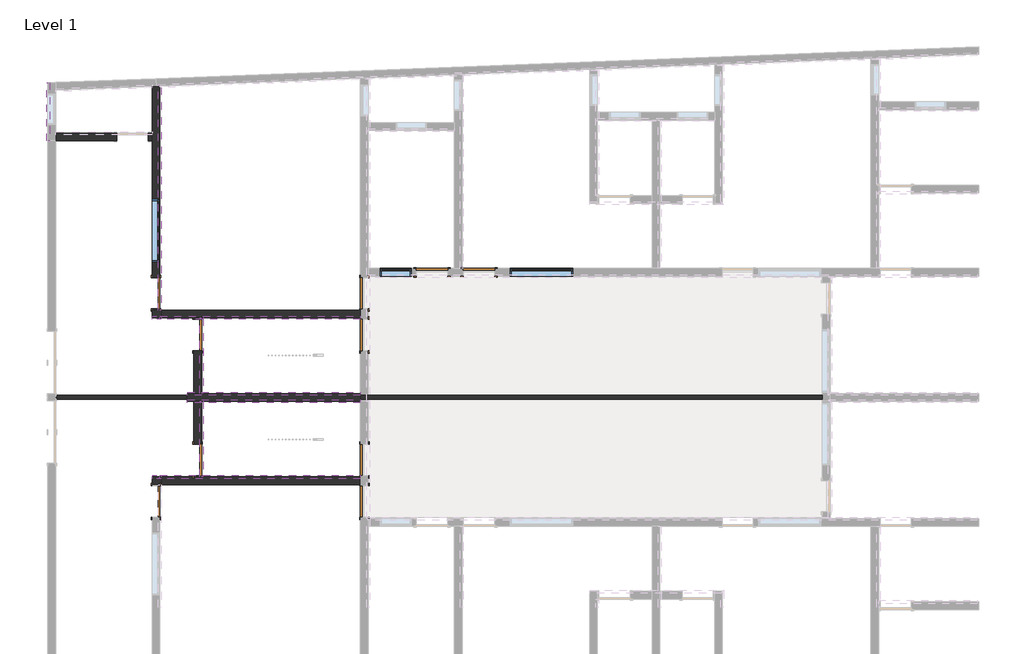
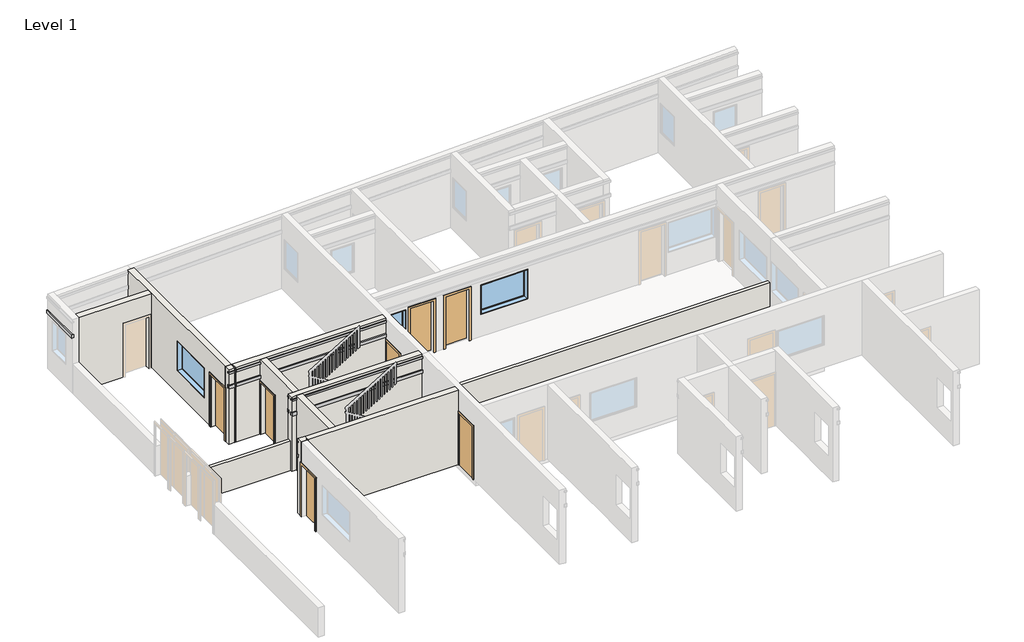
# One storey, part 3 of 5: 20 proxies, 11 walls, 10 doors, 3 windows.
"""IFC4 building model written with IfcOpenShell, lengths in millimetres."""

from ifc_helpers import new_model, si_unit, frame, origin, origin_with_axes, place, context, project, spatial, polyline, outline, extrude, faceted_brep, transform, mapped, element, save
from components import door_0ca8825f, door_a90ba1ad, window_26734613, fixed_6_x4_abaca003

model = new_model("IFC4")

# Units and contexts
model_context = context("Model", 3, world=origin())
ifc_project = project(units=[si_unit("LENGTHUNIT", "METRE", prefix="MILLI")], contexts=[model_context])

# Site, building, storey
site = spatial("IfcSite", under=ifc_project)
building = spatial("IfcBuilding", under=site)
storey = spatial("IfcBuildingStorey", under=building, Name="Level 1", Elevation=0.0)

# Proxies
placement = place(None, origin())
element("IfcBuildingElementProxy", 1, Name="Reveals", at=placement, inside=storey, context=model_context, shape_type="SweptSolid", body=[
    extrude(outline(polyline([(-13868.3142301, 6009.8239224), (-13960.3892301, 6009.8239224), (-13960.3892301, 12611.7298124), (-13868.3142301, 12523.1659086), (-13868.3142301, 6009.8239224)])), frame((0.0, 0.0, 2895.6), z_axis=(0.0, 0.0, 1.0), x_axis=(1.0, 0.0, 0.0)), (0.0, 0.0, 1.0), 67.7333333),
])
element("IfcBuildingElementProxy", 2, Name="Reveals", at=placement, inside=storey, context=model_context, shape_type="SweptSolid", body=[
    extrude(outline(polyline([(-14138.1892301, 5739.9489224), (-14138.1892301, 5832.0239224), (-13871.4892301, 5832.0239224), (-13871.4892301, 5739.9489224), (-14138.1892301, 5739.9489224)])), frame((0.0, 0.0, 2895.6), z_axis=(0.0, 0.0, 1.0), x_axis=(1.0, 0.0, 0.0)), (0.0, 0.0, 1.0), 67.7333333),
])
element("IfcBuildingElementProxy", 3, Name="Reveals", at=placement, inside=storey, context=model_context, shape_type="SweptSolid", body=[
    extrude(outline(polyline([(-13109.4892301, 3301.5489224), (-13109.4892301, 3393.6239224), (-8042.1892301, 3393.6239224), (-8042.1892301, 3301.5489224), (-13109.4892301, 3301.5489224)])), frame((0.0, 0.0, 2895.6), z_axis=(0.0, 0.0, 1.0), x_axis=(1.0, 0.0, 0.0)), (0.0, 0.0, 1.0), 67.7333333),
])
element("IfcBuildingElementProxy", 4, Name="Reveals", at=placement, inside=storey, context=model_context, shape_type="SweptSolid", body=[
    extrude(outline(polyline([(-13909.5892301, 5739.9489224), (-13909.5892301, 5832.0239224), (-8042.1892301, 5832.0239224), (-8042.1892301, 5739.9489224), (-13909.5892301, 5739.9489224)])), frame((0.0, 0.0, 2895.6), z_axis=(0.0, 0.0, 1.0), x_axis=(1.0, 0.0, 0.0)), (0.0, 0.0, 1.0), 67.7333333),
])
element("IfcBuildingElementProxy", 5, Name="Reveals", at=placement, inside=storey, context=model_context, shape_type="SweptSolid", body=[
    extrude(outline(polyline([(-12649.1142301, 3571.4239224), (-12741.1892301, 3571.4239224), (-12741.1892301, 5781.2239224), (-12649.1142301, 5781.2239224), (-12649.1142301, 3571.4239224)])), frame((0.0, 0.0, 2895.6), z_axis=(0.0, 0.0, 1.0), x_axis=(1.0, 0.0, 0.0)), (0.0, 0.0, 1.0), 67.7333333),
])
element("IfcBuildingElementProxy", 6, Name="Reveals", at=placement, inside=storey, context=model_context, shape_type="SweptSolid", body=[
    extrude(outline(polyline([(-14138.1892301, 11232.6989224), (-14138.1892301, 11140.6239224), (-16957.5892301, 11140.6239224), (-16957.5892301, 11232.6989224), (-14138.1892301, 11232.6989224)])), frame((0.0, 0.0, 2895.6), z_axis=(0.0, 0.0, 1.0), x_axis=(1.0, 0.0, 0.0)), (0.0, 0.0, 1.0), 67.7333333),
])
element("IfcBuildingElementProxy", 7, Name="Reveals", at=placement, inside=storey, context=model_context, shape_type="SweptSolid", body=[
    extrude(outline(polyline([(-13109.4892301, 3520.6239224), (-13109.4892301, 3612.6989224), (-8042.1892301, 3612.6989224), (-8042.1892301, 3520.6239224), (-13109.4892301, 3520.6239224)])), frame((0.0, 0.0, 2895.6), z_axis=(0.0, 0.0, 1.0), x_axis=(1.0, 0.0, 0.0)), (0.0, 0.0, 1.0), 67.7333333),
])
element("IfcBuildingElementProxy", 8, Name="Reveals", at=placement, inside=storey, context=model_context, shape_type="SweptSolid", body=[
    extrude(outline(polyline([(-14138.1892301, 1082.2239224), (-14138.1892301, 1174.2989224), (-13871.4892301, 1174.2989224), (-13871.4892301, 1082.2239224), (-14138.1892301, 1082.2239224)])), frame((0.0, 0.0, 2895.6), z_axis=(0.0, 0.0, 1.0), x_axis=(1.0, 0.0, 0.0)), (0.0, 0.0, 1.0), 67.7333333),
])
element("IfcBuildingElementProxy", 9, Name="Reveals", at=placement, inside=storey, context=model_context, shape_type="SweptSolid", body=[
    extrude(outline(polyline([(-13909.5892301, 1082.2239224), (-13909.5892301, 1174.2989224), (-8042.1892301, 1174.2989224), (-8042.1892301, 1082.2239224), (-13909.5892301, 1082.2239224)])), frame((0.0, 0.0, 2895.6), z_axis=(0.0, 0.0, 1.0), x_axis=(1.0, 0.0, 0.0)), (0.0, 0.0, 1.0), 67.7333333),
])
element("IfcBuildingElementProxy", 10, Name="Reveals", at=placement, inside=storey, context=model_context, shape_type="SweptSolid", body=[
    extrude(outline(polyline([(-12741.1892301, 3342.8239224), (-12649.1142301, 3342.8239224), (-12649.1142301, 1133.0239224), (-12741.1892301, 1133.0239224), (-12741.1892301, 3342.8239224)])), frame((0.0, 0.0, 2895.6), z_axis=(0.0, 0.0, 1.0), x_axis=(1.0, 0.0, 0.0)), (0.0, 0.0, 1.0), 67.7333333),
])
element("IfcBuildingElementProxy", 11, Name="Reveals", at=placement, inside=storey, context=model_context, shape_type="SweptSolid", body=[
    extrude(outline(polyline([(-17227.4642301, 12662.6112925), (-17135.3892301, 12666.1919869), (-17135.3892301, 10962.8239224), (-17227.4642301, 10962.8239224), (-17227.4642301, 12662.6112925)])), frame((0.0, 0.0, 2286.0), z_axis=(0.0, 0.0, 1.0), x_axis=(1.0, 0.0, 0.0)), (0.0, 0.0, 1.0), 135.4666667),
])
element("IfcBuildingElementProxy", 12, Name="Reveals", at=placement, inside=storey, context=model_context, shape_type="SweptSolid", body=[
    extrude(outline(polyline([(-13868.3142301, 6009.8239224), (-13960.3892301, 6009.8239224), (-13960.3892301, 12611.7298124), (-13868.3142301, 12523.1659086), (-13868.3142301, 6009.8239224)])), frame((0.0, 0.0, 2286.0), z_axis=(0.0, 0.0, 1.0), x_axis=(1.0, 0.0, 0.0)), (0.0, 0.0, 1.0), 135.4666667),
])
element("IfcBuildingElementProxy", 13, Name="Reveals", at=placement, inside=storey, context=model_context, shape_type="SweptSolid", body=[
    extrude(outline(polyline([(-14138.1892301, 5739.9489224), (-14138.1892301, 5832.0239224), (-13871.4892301, 5832.0239224), (-13871.4892301, 5739.9489224), (-14138.1892301, 5739.9489224)])), frame((0.0, 0.0, 2286.0), z_axis=(0.0, 0.0, 1.0), x_axis=(1.0, 0.0, 0.0)), (0.0, 0.0, 1.0), 135.4666667),
])
element("IfcBuildingElementProxy", 14, Name="Reveals", at=placement, inside=storey, context=model_context, shape_type="SweptSolid", body=[
    extrude(outline(polyline([(-13109.4892301, 3301.5489224), (-13109.4892301, 3393.6239224), (-8042.1892301, 3393.6239224), (-8042.1892301, 3301.5489224), (-13109.4892301, 3301.5489224)])), frame((0.0, 0.0, 2286.0), z_axis=(0.0, 0.0, 1.0), x_axis=(1.0, 0.0, 0.0)), (0.0, 0.0, 1.0), 135.4666667),
])
element("IfcBuildingElementProxy", 15, Name="Reveals", at=placement, inside=storey, context=model_context, shape_type="SweptSolid", body=[
    extrude(outline(polyline([(-13909.5892301, 5739.9489224), (-13909.5892301, 5832.0239224), (-8042.1892301, 5832.0239224), (-8042.1892301, 5739.9489224), (-13909.5892301, 5739.9489224)])), frame((0.0, 0.0, 2286.0), z_axis=(0.0, 0.0, 1.0), x_axis=(1.0, 0.0, 0.0)), (0.0, 0.0, 1.0), 135.4666667),
])
element("IfcBuildingElementProxy", 16, Name="Reveals", at=placement, inside=storey, context=model_context, shape_type="SweptSolid", body=[
    extrude(outline(polyline([(-12649.1142301, 3571.4239224), (-12741.1892301, 3571.4239224), (-12741.1892301, 5781.2239224), (-12649.1142301, 5781.2239224), (-12649.1142301, 3571.4239224)])), frame((0.0, 0.0, 2286.0), z_axis=(0.0, 0.0, 1.0), x_axis=(1.0, 0.0, 0.0)), (0.0, 0.0, 1.0), 135.4666667),
])
element("IfcBuildingElementProxy", 17, Name="Reveals", at=placement, inside=storey, context=model_context, shape_type="SweptSolid", body=[
    extrude(outline(polyline([(-13109.4892301, 3520.6239224), (-13109.4892301, 3612.6989224), (-8042.1892301, 3612.6989224), (-8042.1892301, 3520.6239224), (-13109.4892301, 3520.6239224)])), frame((0.0, 0.0, 2286.0), z_axis=(0.0, 0.0, 1.0), x_axis=(1.0, 0.0, 0.0)), (0.0, 0.0, 1.0), 135.4666667),
])
element("IfcBuildingElementProxy", 18, Name="Reveals", at=placement, inside=storey, context=model_context, shape_type="SweptSolid", body=[
    extrude(outline(polyline([(-14138.1892301, 1082.2239224), (-14138.1892301, 1174.2989224), (-13871.4892301, 1174.2989224), (-13871.4892301, 1082.2239224), (-14138.1892301, 1082.2239224)])), frame((0.0, 0.0, 2286.0), z_axis=(0.0, 0.0, 1.0), x_axis=(1.0, 0.0, 0.0)), (0.0, 0.0, 1.0), 135.4666667),
])
element("IfcBuildingElementProxy", 19, Name="Reveals", at=placement, inside=storey, context=model_context, shape_type="SweptSolid", body=[
    extrude(outline(polyline([(-13909.5892301, 1082.2239224), (-13909.5892301, 1174.2989224), (-8042.1892301, 1174.2989224), (-8042.1892301, 1082.2239224), (-13909.5892301, 1082.2239224)])), frame((0.0, 0.0, 2286.0), z_axis=(0.0, 0.0, 1.0), x_axis=(1.0, 0.0, 0.0)), (0.0, 0.0, 1.0), 135.4666667),
])
element("IfcBuildingElementProxy", 20, Name="Reveals", at=placement, inside=storey, context=model_context, shape_type="SweptSolid", body=[
    extrude(outline(polyline([(-12741.1892301, 3342.8239224), (-12649.1142301, 3342.8239224), (-12649.1142301, 1133.0239224), (-12741.1892301, 1133.0239224), (-12741.1892301, 3342.8239224)])), frame((0.0, 0.0, 2286.0), z_axis=(0.0, 0.0, 1.0), x_axis=(1.0, 0.0, 0.0)), (0.0, 0.0, 1.0), 135.4666667),
])

# Doors
door_shape = door_0ca8825f(model_context)
element("IfcDoor", 21, ObjectType="Single-Flush : 36\" x 84\"", at=placement, inside=storey, context=model_context, shape_type="MappedRepresentation", body=[
    mapped(door_shape, transform((-14023.8892301, 6505.1239224, 0.0), x_axis=(0.0, -1.0, 0.0), y_axis=(1.0, 0.0, 0.0), z_axis=(0.0, 0.0, 1.0))),
])
element("IfcDoor", 22, ObjectType="Single-Flush : 36\" x 84\"", at=placement, inside=storey, context=model_context, shape_type="MappedRepresentation", body=[
    mapped(door_shape, transform((-5946.6892301, 7114.7239224, 0.0), x_axis=(1.0, 0.0, 0.0), y_axis=(0.0, 1.0, 0.0), z_axis=(0.0, 0.0, 1.0))),
])
element("IfcDoor", 23, ObjectType="Single-Flush : 36\" x 84\"", at=placement, inside=storey, context=model_context, shape_type="MappedRepresentation", body=[
    mapped(door_shape, transform((-7927.8892301, 5285.9239224, 0.0), x_axis=(0.0, 1.0, 0.0), y_axis=(-1.0, 0.0, 0.0), z_axis=(0.0, 0.0, 1.0))),
])
element("IfcDoor", 24, ObjectType="Single-Flush : 36\" x 84\"", at=placement, inside=storey, context=model_context, shape_type="MappedRepresentation", body=[
    mapped(door_shape, transform((-7927.8892301, 409.1239224, 0.0), x_axis=(0.0, 1.0, 0.0), y_axis=(-1.0, 0.0, 0.0), z_axis=(0.0, 0.0, 1.0))),
])
element("IfcDoor", 25, ObjectType="Single-Flush : 36\" x 84\"", at=placement, inside=storey, context=model_context, shape_type="MappedRepresentation", body=[
    mapped(door_shape, transform((-12804.6892301, 1628.3239224, 0.0), x_axis=(0.0, -1.0, 0.0), y_axis=(1.0, 0.0, 0.0), z_axis=(0.0, 0.0, 1.0))),
])
door_2_shape = door_a90ba1ad(model_context)
element("IfcDoor", 26, ObjectType="Single-Flush : 36\" x 84\"", at=placement, inside=storey, context=model_context, shape_type="MappedRepresentation", body=[
    mapped(door_2_shape, transform((-7927.8892301, 6505.1239224, 0.0), x_axis=(0.0, -1.0, 0.0), y_axis=(1.0, 0.0, 0.0), z_axis=(0.0, 0.0, 1.0))),
])
element("IfcDoor", 27, ObjectType="Single-Flush : 36\" x 84\"", at=placement, inside=storey, context=model_context, shape_type="MappedRepresentation", body=[
    mapped(door_2_shape, transform((-4575.0892301, 7114.7239224, 0.0), x_axis=(-1.0, 0.0, 0.0), y_axis=(0.0, -1.0, 0.0), z_axis=(0.0, 0.0, 1.0))),
])
element("IfcDoor", 28, ObjectType="Single-Flush : 36\" x 84\"", at=placement, inside=storey, context=model_context, shape_type="MappedRepresentation", body=[
    mapped(door_2_shape, transform((-12804.6892301, 5285.9239224, 0.0), x_axis=(0.0, 1.0, 0.0), y_axis=(-1.0, 0.0, 0.0), z_axis=(0.0, 0.0, 1.0))),
])
element("IfcDoor", 29, ObjectType="Single-Flush : 36\" x 84\"", at=placement, inside=storey, context=model_context, shape_type="MappedRepresentation", body=[
    mapped(door_2_shape, transform((-14023.8892301, 409.1239224, 0.0), x_axis=(0.0, 1.0, 0.0), y_axis=(-1.0, 0.0, 0.0), z_axis=(0.0, 0.0, 1.0))),
])
element("IfcDoor", 30, ObjectType="Single-Flush : 36\" x 84\"", at=placement, inside=storey, context=model_context, shape_type="MappedRepresentation", body=[
    mapped(door_2_shape, transform((-7927.8892301, 1628.3239224, 0.0), x_axis=(0.0, -1.0, 0.0), y_axis=(1.0, 0.0, 0.0), z_axis=(0.0, 0.0, 1.0))),
])

# Walls
element("IfcWall", 31, ObjectType="4.5\" thick brick wall", at=placement, inside=storey, context=model_context, shape_type="SweptSolid", body=[
    extrude(outline(polyline([(5470.6107699, 3399.9739224), (-16957.5892301, 3399.9739224), (-16957.5892301, 3514.2739224), (5470.6107699, 3514.2739224), (5470.6107699, 3399.9739224)])), origin_with_axes(), (0.0, 0.0, 1.0), 1219.2),
])
element("IfcWall", 32, ObjectType="9\" thick brick wall", at=placement, inside=storey, context=model_context, shape_type="Brep", body=[
    faceted_brep([(-13909.5892301, 12562.8669689, 3048.0), (-13909.5892301, 6009.8239224, 3048.0), (-13909.5892301, 6009.8239224, 2963.3333333), (-13909.5892301, 12562.8669689, 2963.3333333), (-13909.5892301, 6047.9239224, 0.0), (-13909.5892301, 6047.9239224, 2133.6), (-13909.5892301, 6962.3239224, 2133.6), (-13909.5892301, 6962.3239224, 0.0), (-13909.5892301, 12562.8669689, 0.0), (-13909.5892301, 12562.8669689, 2286.0), (-13909.5892301, 6009.8239224, 2286.0), (-13909.5892301, 6009.8239224, 0.0), (-13909.5892301, 7419.5239224, 914.4), (-13909.5892301, 7419.5239224, 2133.6), (-13909.5892301, 9248.3239224, 2133.6), (-13909.5892301, 9248.3239224, 914.4), (-13909.5892301, 12562.8669689, 2895.6), (-13909.5892301, 6009.8239224, 2895.6), (-13909.5892301, 6009.8239224, 2421.4666667), (-13909.5892301, 12562.8669689, 2421.4666667), (-14138.1892301, 6009.8239224, 3048.0), (-14138.1892301, 10962.8239224, 3048.0), (-14138.1892301, 11191.4239224, 3048.0), (-14138.1892301, 12553.9769689, 3048.0), (-14138.1892301, 12553.9769689, 2963.3333333), (-14138.1892301, 12553.9769689, 2895.6), (-14138.1892301, 12553.9769689, 2421.4666667), (-14138.1892301, 12553.9769689, 2286.0), (-14138.1892301, 12553.9769689, 0.0), (-14138.1892301, 11191.4239224, 0.0), (-14138.1892301, 10962.8239224, 0.0), (-14138.1892301, 6962.3239224, 0.0), (-14138.1892301, 6962.3239224, 2133.6), (-14138.1892301, 6047.9239224, 2133.6), (-14138.1892301, 6047.9239224, 0.0), (-14138.1892301, 6009.8239224, 0.0), (-14138.1892301, 7419.5239224, 2133.6), (-14138.1892301, 7419.5239224, 914.4), (-14138.1892301, 9248.3239224, 914.4), (-14138.1892301, 9248.3239224, 2133.6), (-14019.4475875, 12558.5946995, 0.0), (-14019.4475875, 12558.5946995, 3048.0), (-13960.3892301, 12560.8914134, 2963.3333333), (-13960.3892301, 12560.8914134, 2895.6), (-13960.3892301, 12560.8914134, 2421.4666667), (-13960.3892301, 12560.8914134, 2286.0), (-13960.3892301, 6009.8239224, 2286.0), (-13960.3892301, 6009.8239224, 2421.4666667), (-13960.3892301, 6009.8239224, 2895.6), (-13960.3892301, 6009.8239224, 2963.3333333)], [[[0, 1, 2, 3]], [[4, 5, 6, 7, 8, 9, 10, 11], [12, 13, 14, 15]], [[16, 17, 18, 19]], [[20, 21, 22, 23, 24, 25, 26, 27, 28, 29, 30, 31, 32, 33, 34, 35], [36, 37, 38, 39]], [[28, 40, 8, 7, 31, 30, 29]], [[11, 35, 34, 4]], [[1, 0, 41, 23, 22, 21, 20]], [[8, 40, 28, 27, 26, 25, 24, 23, 41, 0, 3, 42, 43, 16, 19, 44, 45, 9]], [[1, 20, 35, 11, 10, 46, 47, 18, 17, 48, 49, 2]], [[5, 4, 34, 33]], [[6, 5, 33, 32]], [[7, 6, 32, 31]], [[37, 36, 13, 12]], [[38, 37, 12, 15]], [[39, 38, 15, 14]], [[36, 39, 14, 13]], [[42, 49, 48, 43]], [[43, 48, 17, 16]], [[49, 42, 3, 2]], [[44, 47, 46, 45]], [[45, 46, 10, 9]], [[47, 44, 19, 18]]]),
])
element("IfcWall", 33, ObjectType="9\" thick brick wall", at=placement, inside=storey, context=model_context, shape_type="Brep", body=[
    faceted_brep([(-14138.1892301, 5781.2239224, 0.0), (-13871.4892301, 5781.2239224, 0.0), (-13871.4892301, 5781.2239224, 2286.0), (-13909.5892301, 5781.2239224, 2286.0), (-14138.1892301, 5781.2239224, 2286.0), (-13871.4892301, 5781.2239224, 3048.0), (-14138.1892301, 5781.2239224, 3048.0), (-14138.1892301, 5781.2239224, 2963.3333333), (-13909.5892301, 5781.2239224, 2963.3333333), (-13871.4892301, 5781.2239224, 2963.3333333), (-13871.4892301, 5781.2239224, 2895.6), (-13909.5892301, 5781.2239224, 2895.6), (-14138.1892301, 5781.2239224, 2895.6), (-14138.1892301, 5781.2239224, 2421.4666667), (-13909.5892301, 5781.2239224, 2421.4666667), (-13871.4892301, 5781.2239224, 2421.4666667), (-13871.4892301, 6009.8239224, 0.0), (-13909.5892301, 6009.8239224, 0.0), (-14138.1892301, 6009.8239224, 0.0), (-14138.1892301, 6009.8239224, 3048.0), (-13909.5892301, 6009.8239224, 3048.0), (-13871.4892301, 6009.8239224, 3048.0), (-13871.4892301, 6009.8239224, 2963.3333333), (-13871.4892301, 6009.8239224, 2895.6), (-13871.4892301, 6009.8239224, 2421.4666667), (-13871.4892301, 6009.8239224, 2286.0), (-13871.4892301, 5832.0239224, 2963.3333333), (-13871.4892301, 5832.0239224, 2895.6), (-13871.4892301, 5832.0239224, 2421.4666667), (-13871.4892301, 5832.0239224, 2286.0), (-14138.1892301, 5832.0239224, 2286.0), (-14138.1892301, 5832.0239224, 2421.4666667), (-14138.1892301, 5832.0239224, 2895.6), (-14138.1892301, 5832.0239224, 2963.3333333), (-13909.5892301, 5832.0239224, 2963.3333333), (-13909.5892301, 5832.0239224, 2895.6), (-13909.5892301, 5832.0239224, 2421.4666667), (-13909.5892301, 5832.0239224, 2286.0)], [[[0, 1, 2, 3, 4]], [[5, 6, 7, 8, 9]], [[10, 11, 12, 13, 14, 15]], [[16, 17, 18, 19, 20, 21, 22, 23, 24, 25]], [[1, 0, 18, 17, 16]], [[1, 16, 25, 24, 23, 22, 21, 5, 9, 26, 27, 10, 15, 28, 29, 2]], [[6, 5, 21, 20, 19]], [[6, 19, 18, 0, 4, 30, 31, 13, 12, 32, 33, 7]], [[27, 26, 34, 33, 32, 35]], [[10, 27, 35, 32, 12, 11]], [[26, 9, 8, 7, 33, 34]], [[29, 28, 36, 31, 30, 37]], [[2, 29, 37, 30, 4, 3]], [[28, 15, 14, 13, 31, 36]]]),
])
element("IfcWall", 34, ObjectType="9\" thick brick wall", at=placement, inside=storey, context=model_context, shape_type="Brep", body=[
    faceted_brep([(-13109.4892301, 3342.8239224, 0.0), (-12918.9892301, 3342.8239224, 0.0), (-12690.3892301, 3342.8239224, 0.0), (-8042.1892301, 3342.8239224, 0.0), (-8042.1892301, 3342.8239224, 2286.0), (-13109.4892301, 3342.8239224, 2286.0), (-8042.1892301, 3342.8239224, 3048.0), (-12690.3892301, 3342.8239224, 3048.0), (-12918.9892301, 3342.8239224, 3048.0), (-13109.4892301, 3342.8239224, 3048.0), (-13109.4892301, 3342.8239224, 2963.3333333), (-8042.1892301, 3342.8239224, 2963.3333333), (-8042.1892301, 3342.8239224, 2895.6), (-13109.4892301, 3342.8239224, 2895.6), (-13109.4892301, 3342.8239224, 2421.4666667), (-8042.1892301, 3342.8239224, 2421.4666667), (-8042.1892301, 3571.4239224, 0.0), (-12690.3892301, 3571.4239224, 0.0), (-12918.9892301, 3571.4239224, 0.0), (-13109.4892301, 3571.4239224, 0.0), (-13109.4892301, 3571.4239224, 2286.0), (-8042.1892301, 3571.4239224, 2286.0), (-13109.4892301, 3571.4239224, 3048.0), (-12918.9892301, 3571.4239224, 3048.0), (-12690.3892301, 3571.4239224, 3048.0), (-8042.1892301, 3571.4239224, 3048.0), (-8042.1892301, 3571.4239224, 2963.3333333), (-13109.4892301, 3571.4239224, 2963.3333333), (-13109.4892301, 3571.4239224, 2895.6), (-8042.1892301, 3571.4239224, 2895.6), (-8042.1892301, 3571.4239224, 2421.4666667), (-13109.4892301, 3571.4239224, 2421.4666667), (-13109.4892301, 3520.6239224, 2963.3333333), (-13109.4892301, 3520.6239224, 2895.6), (-13109.4892301, 3520.6239224, 2421.4666667), (-13109.4892301, 3520.6239224, 2286.0), (-13109.4892301, 3393.6239224, 2286.0), (-13109.4892301, 3393.6239224, 2421.4666667), (-13109.4892301, 3393.6239224, 2895.6), (-13109.4892301, 3393.6239224, 2963.3333333), (-8042.1892301, 3520.6239224, 2286.0), (-8042.1892301, 3520.6239224, 2421.4666667), (-8042.1892301, 3520.6239224, 2895.6), (-8042.1892301, 3520.6239224, 2963.3333333), (-8042.1892301, 3393.6239224, 2963.3333333), (-8042.1892301, 3393.6239224, 2895.6), (-8042.1892301, 3393.6239224, 2421.4666667), (-8042.1892301, 3393.6239224, 2286.0)], [[[0, 1, 2, 3, 4, 5]], [[6, 7, 8, 9, 10, 11]], [[12, 13, 14, 15]], [[16, 17, 18, 19, 20, 21]], [[22, 23, 24, 25, 26, 27]], [[28, 29, 30, 31]], [[3, 2, 1, 0, 19, 18, 17, 16]], [[9, 8, 7, 6, 25, 24, 23, 22]], [[9, 22, 27, 32, 33, 28, 31, 34, 35, 20, 19, 0, 5, 36, 37, 14, 13, 38, 39, 10]], [[3, 16, 21, 40, 41, 30, 29, 42, 43, 26, 25, 6, 11, 44, 45, 12, 15, 46, 47, 4]], [[44, 39, 38, 45]], [[45, 38, 13, 12]], [[39, 44, 11, 10]], [[43, 32, 27, 26]], [[33, 42, 29, 28]], [[32, 43, 42, 33]], [[46, 37, 36, 47]], [[47, 36, 5, 4]], [[37, 46, 15, 14]], [[41, 34, 31, 30]], [[35, 40, 21, 20]], [[34, 41, 40, 35]]]),
])
element("IfcWall", 35, ObjectType="9\" thick brick wall", at=placement, inside=storey, context=model_context, shape_type="Brep", body=[
    faceted_brep([(-13909.5892301, 5781.2239224, 0.0), (-12918.9892301, 5781.2239224, 0.0), (-12690.3892301, 5781.2239224, 0.0), (-8042.1892301, 5781.2239224, 0.0), (-8042.1892301, 5781.2239224, 2286.0), (-13871.4892301, 5781.2239224, 2286.0), (-13909.5892301, 5781.2239224, 2286.0), (-8042.1892301, 5781.2239224, 3048.0), (-12690.3892301, 5781.2239224, 3048.0), (-12918.9892301, 5781.2239224, 3048.0), (-13909.5892301, 5781.2239224, 3048.0), (-13909.5892301, 5781.2239224, 2963.3333333), (-13871.4892301, 5781.2239224, 2963.3333333), (-8042.1892301, 5781.2239224, 2963.3333333), (-8042.1892301, 5781.2239224, 2895.6), (-13871.4892301, 5781.2239224, 2895.6), (-13909.5892301, 5781.2239224, 2895.6), (-13909.5892301, 5781.2239224, 2421.4666667), (-13871.4892301, 5781.2239224, 2421.4666667), (-8042.1892301, 5781.2239224, 2421.4666667), (-8042.1892301, 6009.8239224, 0.0), (-13909.5892301, 6009.8239224, 0.0), (-13909.5892301, 6009.8239224, 2286.0), (-13909.5892301, 6009.8239224, 2421.4666667), (-13909.5892301, 6009.8239224, 2895.6), (-13909.5892301, 6009.8239224, 2963.3333333), (-13909.5892301, 6009.8239224, 3048.0), (-8042.1892301, 6009.8239224, 3048.0), (-8042.1892301, 5832.0239224, 2963.3333333), (-8042.1892301, 5832.0239224, 2895.6), (-8042.1892301, 5832.0239224, 2421.4666667), (-8042.1892301, 5832.0239224, 2286.0), (-13909.5892301, 5832.0239224, 2286.0), (-13909.5892301, 5832.0239224, 2421.4666667), (-13909.5892301, 5832.0239224, 2895.6), (-13909.5892301, 5832.0239224, 2963.3333333), (-13871.4892301, 5832.0239224, 2963.3333333), (-13871.4892301, 5832.0239224, 2895.6), (-13871.4892301, 5832.0239224, 2421.4666667), (-13871.4892301, 5832.0239224, 2286.0)], [[[0, 1, 2, 3, 4, 5, 6]], [[7, 8, 9, 10, 11, 12, 13]], [[14, 15, 16, 17, 18, 19]], [[20, 21, 22, 23, 24, 25, 26, 27]], [[3, 2, 1, 0, 21, 20]], [[10, 9, 8, 7, 27, 26]], [[3, 20, 27, 7, 13, 28, 29, 14, 19, 30, 31, 4]], [[10, 26, 25, 24, 23, 22, 21, 0, 6, 32, 33, 17, 16, 34, 35, 11]], [[29, 28, 36, 35, 34, 37]], [[14, 29, 37, 34, 16, 15]], [[28, 13, 12, 11, 35, 36]], [[31, 30, 38, 33, 32, 39]], [[4, 31, 39, 32, 6, 5]], [[30, 19, 18, 17, 33, 38]]]),
])
element("IfcWall", 36, ObjectType="9\" thick brick wall", at=placement, inside=storey, context=model_context, shape_type="Brep", body=[
    faceted_brep([(-12690.3892301, 5781.2239224, 3048.0), (-12690.3892301, 3571.4239224, 3048.0), (-12690.3892301, 3571.4239224, 2963.3333333), (-12690.3892301, 5781.2239224, 2963.3333333), (-12690.3892301, 5743.1239224, 2133.6), (-12690.3892301, 5743.1239224, 0.0), (-12690.3892301, 5781.2239224, 0.0), (-12690.3892301, 5781.2239224, 2286.0), (-12690.3892301, 3571.4239224, 2286.0), (-12690.3892301, 3571.4239224, 0.0), (-12690.3892301, 4828.7239224, 0.0), (-12690.3892301, 4828.7239224, 2133.6), (-12690.3892301, 5781.2239224, 2895.6), (-12690.3892301, 3571.4239224, 2895.6), (-12690.3892301, 3571.4239224, 2421.4666667), (-12690.3892301, 5781.2239224, 2421.4666667), (-12918.9892301, 3571.4239224, 3048.0), (-12918.9892301, 5781.2239224, 3048.0), (-12918.9892301, 5781.2239224, 0.0), (-12918.9892301, 5743.1239224, 0.0), (-12918.9892301, 5743.1239224, 2133.6), (-12918.9892301, 4828.7239224, 2133.6), (-12918.9892301, 4828.7239224, 0.0), (-12918.9892301, 3571.4239224, 0.0), (-12741.1892301, 3571.4239224, 2286.0), (-12741.1892301, 3571.4239224, 2421.4666667), (-12741.1892301, 3571.4239224, 2895.6), (-12741.1892301, 3571.4239224, 2963.3333333), (-12741.1892301, 5781.2239224, 2963.3333333), (-12741.1892301, 5781.2239224, 2895.6), (-12741.1892301, 5781.2239224, 2421.4666667), (-12741.1892301, 5781.2239224, 2286.0)], [[[0, 1, 2, 3]], [[4, 5, 6, 7, 8, 9, 10, 11]], [[12, 13, 14, 15]], [[16, 17, 18, 19, 20, 21, 22, 23]], [[9, 23, 22, 10]], [[18, 6, 5, 19]], [[1, 0, 17, 16]], [[1, 16, 23, 9, 8, 24, 25, 14, 13, 26, 27, 2]], [[6, 18, 17, 0, 3, 28, 29, 12, 15, 30, 31, 7]], [[20, 19, 5, 4]], [[21, 20, 4, 11]], [[22, 21, 11, 10]], [[28, 27, 26, 29]], [[29, 26, 13, 12]], [[27, 28, 3, 2]], [[30, 25, 24, 31]], [[31, 24, 8, 7]], [[25, 30, 15, 14]]]),
])
element("IfcWall", 37, ObjectType="9\" thick brick wall", at=placement, inside=storey, context=model_context, shape_type="Brep", body=[
    faceted_brep([(-16957.5892301, 11191.4239224, 3048.0), (-14138.1892301, 11191.4239224, 3048.0), (-14138.1892301, 11191.4239224, 2963.3333333), (-16957.5892301, 11191.4239224, 2963.3333333), (-14252.4892301, 11191.4239224, 0.0), (-14252.4892301, 11191.4239224, 2133.6), (-15166.8892301, 11191.4239224, 2133.6), (-15166.8892301, 11191.4239224, 0.0), (-16957.5892301, 11191.4239224, 0.0), (-16957.5892301, 11191.4239224, 2286.0), (-14138.1892301, 11191.4239224, 2286.0), (-14138.1892301, 11191.4239224, 0.0), (-16957.5892301, 11191.4239224, 2895.6), (-14138.1892301, 11191.4239224, 2895.6), (-14138.1892301, 11191.4239224, 2421.4666667), (-16957.5892301, 11191.4239224, 2421.4666667), (-14138.1892301, 10962.8239224, 3048.0), (-16957.5892301, 10962.8239224, 3048.0), (-16957.5892301, 10962.8239224, 0.0), (-15166.8892301, 10962.8239224, 0.0), (-15166.8892301, 10962.8239224, 2133.6), (-14252.4892301, 10962.8239224, 2133.6), (-14252.4892301, 10962.8239224, 0.0), (-14138.1892301, 10962.8239224, 0.0), (-16957.5892301, 11140.6239224, 2963.3333333), (-16957.5892301, 11140.6239224, 2895.6), (-16957.5892301, 11140.6239224, 2421.4666667), (-16957.5892301, 11140.6239224, 2286.0), (-14138.1892301, 11140.6239224, 2286.0), (-14138.1892301, 11140.6239224, 2421.4666667), (-14138.1892301, 11140.6239224, 2895.6), (-14138.1892301, 11140.6239224, 2963.3333333)], [[[0, 1, 2, 3]], [[4, 5, 6, 7, 8, 9, 10, 11]], [[12, 13, 14, 15]], [[16, 17, 18, 19, 20, 21, 22, 23]], [[18, 8, 7, 19]], [[11, 23, 22, 4]], [[1, 0, 17, 16]], [[8, 18, 17, 0, 3, 24, 25, 12, 15, 26, 27, 9]], [[1, 16, 23, 11, 10, 28, 29, 14, 13, 30, 31, 2]], [[5, 4, 22, 21]], [[6, 5, 21, 20]], [[7, 6, 20, 19]], [[24, 31, 30, 25]], [[25, 30, 13, 12]], [[31, 24, 3, 2]], [[26, 29, 28, 27]], [[27, 28, 10, 9]], [[29, 26, 15, 14]]]),
])
element("IfcWall", 38, ObjectType="9\" thick brick wall", at=placement, inside=storey, context=model_context, shape_type="Brep", body=[
    faceted_brep([(-14138.1892301, 904.4239224, 0.0), (-13909.5892301, 904.4239224, 0.0), (-13871.4892301, 904.4239224, 0.0), (-13871.4892301, 904.4239224, 2286.0), (-13871.4892301, 904.4239224, 2421.4666667), (-13871.4892301, 904.4239224, 2895.6), (-13871.4892301, 904.4239224, 2963.3333333), (-13871.4892301, 904.4239224, 3048.0), (-13909.5892301, 904.4239224, 3048.0), (-14138.1892301, 904.4239224, 3048.0), (-13871.4892301, 1133.0239224, 0.0), (-14138.1892301, 1133.0239224, 0.0), (-14138.1892301, 1133.0239224, 2286.0), (-13909.5892301, 1133.0239224, 2286.0), (-13871.4892301, 1133.0239224, 2286.0), (-14138.1892301, 1133.0239224, 3048.0), (-13871.4892301, 1133.0239224, 3048.0), (-13871.4892301, 1133.0239224, 2963.3333333), (-13909.5892301, 1133.0239224, 2963.3333333), (-14138.1892301, 1133.0239224, 2963.3333333), (-14138.1892301, 1133.0239224, 2895.6), (-13909.5892301, 1133.0239224, 2895.6), (-13871.4892301, 1133.0239224, 2895.6), (-13871.4892301, 1133.0239224, 2421.4666667), (-13909.5892301, 1133.0239224, 2421.4666667), (-14138.1892301, 1133.0239224, 2421.4666667), (-13871.4892301, 1082.2239224, 2286.0), (-13871.4892301, 1082.2239224, 2421.4666667), (-13871.4892301, 1082.2239224, 2895.6), (-13871.4892301, 1082.2239224, 2963.3333333), (-14138.1892301, 1082.2239224, 2963.3333333), (-14138.1892301, 1082.2239224, 2895.6), (-14138.1892301, 1082.2239224, 2421.4666667), (-14138.1892301, 1082.2239224, 2286.0), (-13909.5892301, 1082.2239224, 2963.3333333), (-13909.5892301, 1082.2239224, 2895.6), (-13909.5892301, 1082.2239224, 2421.4666667), (-13909.5892301, 1082.2239224, 2286.0)], [[[0, 1, 2, 3, 4, 5, 6, 7, 8, 9]], [[10, 11, 12, 13, 14]], [[15, 16, 17, 18, 19]], [[20, 21, 22, 23, 24, 25]], [[2, 1, 0, 11, 10]], [[2, 10, 14, 26, 27, 23, 22, 28, 29, 17, 16, 7, 6, 5, 4, 3]], [[9, 8, 7, 16, 15]], [[0, 9, 15, 19, 30, 31, 20, 25, 32, 33, 12, 11]], [[17, 29, 34, 30, 19, 18]], [[28, 22, 21, 20, 31, 35]], [[29, 28, 35, 31, 30, 34]], [[23, 27, 36, 32, 25, 24]], [[26, 14, 13, 12, 33, 37]], [[27, 26, 37, 33, 32, 36]]]),
])
element("IfcWall", 39, ObjectType="9\" thick brick wall", at=placement, inside=storey, context=model_context, shape_type="Brep", body=[
    faceted_brep([(-13109.4892301, 3342.8239224, 0.0), (-12918.9892301, 3342.8239224, 0.0), (-12690.3892301, 3342.8239224, 0.0), (-8042.1892301, 3342.8239224, 0.0), (-8042.1892301, 3342.8239224, 2286.0), (-13109.4892301, 3342.8239224, 2286.0), (-8042.1892301, 3342.8239224, 3048.0), (-12690.3892301, 3342.8239224, 3048.0), (-12918.9892301, 3342.8239224, 3048.0), (-13109.4892301, 3342.8239224, 3048.0), (-13109.4892301, 3342.8239224, 2963.3333333), (-8042.1892301, 3342.8239224, 2963.3333333), (-8042.1892301, 3342.8239224, 2895.6), (-13109.4892301, 3342.8239224, 2895.6), (-13109.4892301, 3342.8239224, 2421.4666667), (-8042.1892301, 3342.8239224, 2421.4666667), (-8042.1892301, 3571.4239224, 0.0), (-13109.4892301, 3571.4239224, 0.0), (-13109.4892301, 3571.4239224, 2286.0), (-8042.1892301, 3571.4239224, 2286.0), (-13109.4892301, 3571.4239224, 3048.0), (-8042.1892301, 3571.4239224, 3048.0), (-8042.1892301, 3571.4239224, 2963.3333333), (-13109.4892301, 3571.4239224, 2963.3333333), (-13109.4892301, 3571.4239224, 2895.6), (-8042.1892301, 3571.4239224, 2895.6), (-8042.1892301, 3571.4239224, 2421.4666667), (-13109.4892301, 3571.4239224, 2421.4666667), (-13109.4892301, 3520.6239224, 2963.3333333), (-13109.4892301, 3520.6239224, 2895.6), (-13109.4892301, 3520.6239224, 2421.4666667), (-13109.4892301, 3520.6239224, 2286.0), (-13109.4892301, 3393.6239224, 2286.0), (-13109.4892301, 3393.6239224, 2421.4666667), (-13109.4892301, 3393.6239224, 2895.6), (-13109.4892301, 3393.6239224, 2963.3333333), (-8042.1892301, 3520.6239224, 2286.0), (-8042.1892301, 3520.6239224, 2421.4666667), (-8042.1892301, 3520.6239224, 2895.6), (-8042.1892301, 3520.6239224, 2963.3333333), (-8042.1892301, 3393.6239224, 2963.3333333), (-8042.1892301, 3393.6239224, 2895.6), (-8042.1892301, 3393.6239224, 2421.4666667), (-8042.1892301, 3393.6239224, 2286.0)], [[[0, 1, 2, 3, 4, 5]], [[6, 7, 8, 9, 10, 11]], [[12, 13, 14, 15]], [[16, 17, 18, 19]], [[20, 21, 22, 23]], [[24, 25, 26, 27]], [[3, 2, 1, 0, 17, 16]], [[9, 8, 7, 6, 21, 20]], [[9, 20, 23, 28, 29, 24, 27, 30, 31, 18, 17, 0, 5, 32, 33, 14, 13, 34, 35, 10]], [[3, 16, 19, 36, 37, 26, 25, 38, 39, 22, 21, 6, 11, 40, 41, 12, 15, 42, 43, 4]], [[39, 28, 23, 22]], [[29, 38, 25, 24]], [[28, 39, 38, 29]], [[40, 35, 34, 41]], [[41, 34, 13, 12]], [[35, 40, 11, 10]], [[37, 30, 27, 26]], [[31, 36, 19, 18]], [[30, 37, 36, 31]], [[42, 33, 32, 43]], [[43, 32, 5, 4]], [[33, 42, 15, 14]]]),
])
element("IfcWall", 40, ObjectType="9\" thick brick wall", at=placement, inside=storey, context=model_context, shape_type="Brep", body=[
    faceted_brep([(-13909.5892301, 904.4239224, 0.0), (-8042.1892301, 904.4239224, 0.0), (-8042.1892301, 904.4239224, 3048.0), (-13909.5892301, 904.4239224, 3048.0), (-13909.5892301, 904.4239224, 2963.3333333), (-13909.5892301, 904.4239224, 2895.6), (-13909.5892301, 904.4239224, 2421.4666667), (-13909.5892301, 904.4239224, 2286.0), (-8042.1892301, 1133.0239224, 0.0), (-12690.3892301, 1133.0239224, 0.0), (-12918.9892301, 1133.0239224, 0.0), (-13909.5892301, 1133.0239224, 0.0), (-13909.5892301, 1133.0239224, 2286.0), (-13871.4892301, 1133.0239224, 2286.0), (-8042.1892301, 1133.0239224, 2286.0), (-13909.5892301, 1133.0239224, 3048.0), (-12918.9892301, 1133.0239224, 3048.0), (-12690.3892301, 1133.0239224, 3048.0), (-8042.1892301, 1133.0239224, 3048.0), (-8042.1892301, 1133.0239224, 2963.3333333), (-13871.4892301, 1133.0239224, 2963.3333333), (-13909.5892301, 1133.0239224, 2963.3333333), (-13909.5892301, 1133.0239224, 2895.6), (-13871.4892301, 1133.0239224, 2895.6), (-8042.1892301, 1133.0239224, 2895.6), (-8042.1892301, 1133.0239224, 2421.4666667), (-13871.4892301, 1133.0239224, 2421.4666667), (-13909.5892301, 1133.0239224, 2421.4666667), (-8042.1892301, 1082.2239224, 2286.0), (-8042.1892301, 1082.2239224, 2421.4666667), (-8042.1892301, 1082.2239224, 2895.6), (-8042.1892301, 1082.2239224, 2963.3333333), (-13909.5892301, 1082.2239224, 2963.3333333), (-13909.5892301, 1082.2239224, 2895.6), (-13909.5892301, 1082.2239224, 2421.4666667), (-13909.5892301, 1082.2239224, 2286.0), (-13871.4892301, 1082.2239224, 2963.3333333), (-13871.4892301, 1082.2239224, 2895.6), (-13871.4892301, 1082.2239224, 2421.4666667), (-13871.4892301, 1082.2239224, 2286.0)], [[[0, 1, 2, 3, 4, 5, 6, 7]], [[8, 9, 10, 11, 12, 13, 14]], [[15, 16, 17, 18, 19, 20, 21]], [[22, 23, 24, 25, 26, 27]], [[1, 0, 11, 10, 9, 8]], [[3, 2, 18, 17, 16, 15]], [[2, 1, 8, 14, 28, 29, 25, 24, 30, 31, 19, 18]], [[3, 15, 21, 32, 33, 22, 27, 34, 35, 12, 11, 0, 7, 6, 5, 4]], [[19, 31, 36, 32, 21, 20]], [[30, 24, 23, 22, 33, 37]], [[31, 30, 37, 33, 32, 36]], [[25, 29, 38, 34, 27, 26]], [[28, 14, 13, 12, 35, 39]], [[29, 28, 39, 35, 34, 38]]]),
])
element("IfcWall", 41, ObjectType="9\" thick brick wall", at=placement, inside=storey, context=model_context, shape_type="Brep", body=[
    faceted_brep([(-12918.9892301, 1133.0239224, 3048.0), (-12918.9892301, 3342.8239224, 3048.0), (-12918.9892301, 3342.8239224, 0.0), (-12918.9892301, 2085.5239224, 0.0), (-12918.9892301, 2085.5239224, 2133.6), (-12918.9892301, 1171.1239224, 2133.6), (-12918.9892301, 1171.1239224, 0.0), (-12918.9892301, 1133.0239224, 0.0), (-12690.3892301, 3342.8239224, 3048.0), (-12690.3892301, 1133.0239224, 3048.0), (-12690.3892301, 1133.0239224, 2963.3333333), (-12690.3892301, 3342.8239224, 2963.3333333), (-12690.3892301, 1171.1239224, 0.0), (-12690.3892301, 1171.1239224, 2133.6), (-12690.3892301, 2085.5239224, 2133.6), (-12690.3892301, 2085.5239224, 0.0), (-12690.3892301, 3342.8239224, 0.0), (-12690.3892301, 3342.8239224, 2286.0), (-12690.3892301, 1133.0239224, 2286.0), (-12690.3892301, 1133.0239224, 0.0), (-12690.3892301, 3342.8239224, 2895.6), (-12690.3892301, 1133.0239224, 2895.6), (-12690.3892301, 1133.0239224, 2421.4666667), (-12690.3892301, 3342.8239224, 2421.4666667), (-12741.1892301, 3342.8239224, 2963.3333333), (-12741.1892301, 3342.8239224, 2895.6), (-12741.1892301, 3342.8239224, 2421.4666667), (-12741.1892301, 3342.8239224, 2286.0), (-12741.1892301, 1133.0239224, 2286.0), (-12741.1892301, 1133.0239224, 2421.4666667), (-12741.1892301, 1133.0239224, 2895.6), (-12741.1892301, 1133.0239224, 2963.3333333)], [[[0, 1, 2, 3, 4, 5, 6, 7]], [[8, 9, 10, 11]], [[12, 13, 14, 15, 16, 17, 18, 19]], [[20, 21, 22, 23]], [[2, 16, 15, 3]], [[19, 7, 6, 12]], [[1, 0, 9, 8]], [[2, 1, 8, 11, 24, 25, 20, 23, 26, 27, 17, 16]], [[0, 7, 19, 18, 28, 29, 22, 21, 30, 31, 10, 9]], [[13, 12, 6, 5]], [[14, 13, 5, 4]], [[15, 14, 4, 3]], [[31, 24, 11, 10]], [[25, 30, 21, 20]], [[24, 31, 30, 25]], [[29, 26, 23, 22]], [[27, 28, 18, 17]], [[26, 29, 28, 27]]]),
])

# Windows
window_shape = window_26734613(model_context)
element("IfcWindow", 42, ObjectType="Fixed : 36\" x 48\"", at=placement, inside=storey, context=model_context, shape_type="MappedRepresentation", body=[
    mapped(window_shape, transform((-7051.5892301, 7114.7239224, 0.0), x_axis=(-1.0, 0.0, 0.0), y_axis=(0.0, -1.0, 0.0), z_axis=(0.0, 0.0, 1.0))),
])
fixed_6_x4_shape = fixed_6_x4_abaca003(model_context)
element("IfcWindow", 43, ObjectType="Fixed : 6'X4'", at=placement, inside=storey, context=model_context, shape_type="MappedRepresentation", body=[
    mapped(fixed_6_x4_shape, transform((-14023.8892301, 8295.8239224, 0.0), x_axis=(0.0, -1.0, 0.0), y_axis=(1.0, 0.0, 0.0), z_axis=(0.0, 0.0, 1.0))),
])
element("IfcWindow", 44, ObjectType="Fixed : 6'X4'", at=placement, inside=storey, context=model_context, shape_type="MappedRepresentation", body=[
    mapped(fixed_6_x4_shape, transform((-2708.1892301, 7114.7239224, 0.0), x_axis=(1.0, 0.0, 0.0), y_axis=(0.0, 1.0, 0.0), z_axis=(0.0, 0.0, 1.0))),
])

save(model, "model.ifc")
